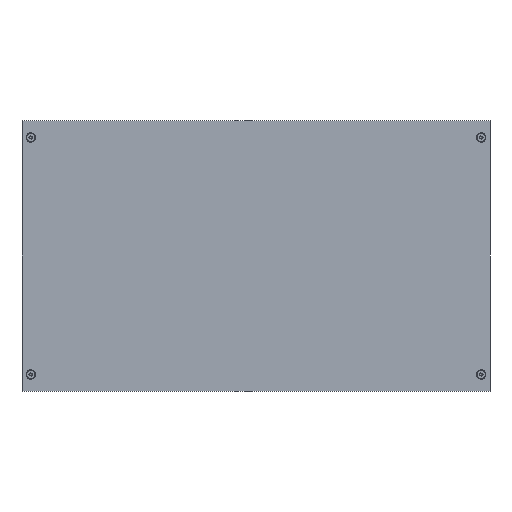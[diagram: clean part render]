
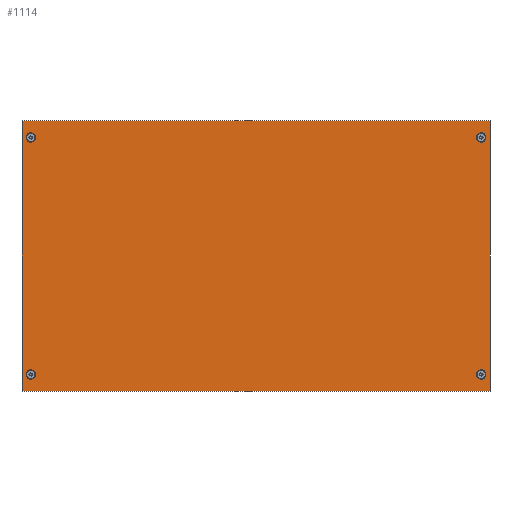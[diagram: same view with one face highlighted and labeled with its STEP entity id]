
A CAD part, front view. The second image highlights one B-rep face of the part: STEP entity #1114.
In plain terms, the highlighted planar face has unit normal (0, -1, 0).
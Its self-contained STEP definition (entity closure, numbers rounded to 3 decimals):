
#99=LINE('',#1996,#175);
#100=LINE('',#1999,#176);
#101=LINE('',#2001,#177);
#102=LINE('',#2003,#178);
#175=VECTOR('',#1621,1000.);
#176=VECTOR('',#1622,1000.);
#177=VECTOR('',#1623,1000.);
#178=VECTOR('',#1624,1000.);
#256=ORIENTED_EDGE('',*,*,#540,.T.);
#257=ORIENTED_EDGE('',*,*,#541,.T.);
#258=ORIENTED_EDGE('',*,*,#542,.T.);
#259=ORIENTED_EDGE('',*,*,#543,.T.);
#260=ORIENTED_EDGE('',*,*,#544,.T.);
#261=ORIENTED_EDGE('',*,*,#545,.T.);
#262=ORIENTED_EDGE('',*,*,#546,.T.);
#263=ORIENTED_EDGE('',*,*,#547,.T.);
#540=EDGE_CURVE('',#682,#683,#99,.T.);
#541=EDGE_CURVE('',#683,#684,#100,.T.);
#542=EDGE_CURVE('',#684,#685,#101,.T.);
#543=EDGE_CURVE('',#685,#682,#102,.T.);
#544=EDGE_CURVE('',#686,#686,#785,.T.);
#545=EDGE_CURVE('',#687,#687,#786,.T.);
#546=EDGE_CURVE('',#688,#688,#787,.T.);
#547=EDGE_CURVE('',#689,#689,#788,.T.);
#682=VERTEX_POINT('',#1997);
#683=VERTEX_POINT('',#1998);
#684=VERTEX_POINT('',#2000);
#685=VERTEX_POINT('',#2002);
#686=VERTEX_POINT('',#2005);
#687=VERTEX_POINT('',#2007);
#688=VERTEX_POINT('',#2009);
#689=VERTEX_POINT('',#2011);
#785=CIRCLE('',#1460,6.932);
#786=CIRCLE('',#1461,6.932);
#787=CIRCLE('',#1462,6.932);
#788=CIRCLE('',#1463,6.932);
#848=EDGE_LOOP('',(#256,#257,#258,#259));
#849=EDGE_LOOP('',(#260));
#850=EDGE_LOOP('',(#261));
#851=EDGE_LOOP('',(#262));
#852=EDGE_LOOP('',(#263));
#966=FACE_BOUND('',#848,.T.);
#967=FACE_BOUND('',#849,.T.);
#968=FACE_BOUND('',#850,.T.);
#969=FACE_BOUND('',#851,.T.);
#970=FACE_BOUND('',#852,.T.);
#1080=PLANE('',#1459);
#1114=ADVANCED_FACE('',(#966,#967,#968,#969,#970),#1080,.F.);
#1459=AXIS2_PLACEMENT_3D('',#1995,#1619,#1620);
#1460=AXIS2_PLACEMENT_3D('',#2004,#1625,#1626);
#1461=AXIS2_PLACEMENT_3D('',#2006,#1627,#1628);
#1462=AXIS2_PLACEMENT_3D('',#2008,#1629,#1630);
#1463=AXIS2_PLACEMENT_3D('',#2010,#1631,#1632);
#1619=DIRECTION('',(0.,1.,0.));
#1620=DIRECTION('',(0.,0.,1.));
#1621=DIRECTION('',(0.,0.,1.));
#1622=DIRECTION('',(-1.,0.,0.));
#1623=DIRECTION('',(0.,0.,-1.));
#1624=DIRECTION('',(1.,0.,0.));
#1625=DIRECTION('',(0.,1.,0.));
#1626=DIRECTION('',(0.,0.,1.));
#1627=DIRECTION('',(0.,1.,0.));
#1628=DIRECTION('',(0.,0.,1.));
#1629=DIRECTION('',(0.,1.,0.));
#1630=DIRECTION('',(0.,0.,1.));
#1631=DIRECTION('',(0.,1.,0.));
#1632=DIRECTION('',(0.,0.,1.));
#1995=CARTESIAN_POINT('',(0.,0.,0.));
#1996=CARTESIAN_POINT('',(345.5,0.,-1388.239));
#1997=CARTESIAN_POINT('',(345.5,0.,-199.5));
#1998=CARTESIAN_POINT('',(345.5,0.,199.5));
#1999=CARTESIAN_POINT('',(2410.239,0.,199.5));
#2000=CARTESIAN_POINT('',(-345.5,0.,199.5));
#2001=CARTESIAN_POINT('',(-345.5,0.,1388.239));
#2002=CARTESIAN_POINT('',(-345.5,0.,-199.5));
#2003=CARTESIAN_POINT('',(-2410.239,0.,-199.5));
#2004=CARTESIAN_POINT('',(332.5,0.,-175.));
#2005=CARTESIAN_POINT('',(332.5,0.,-168.068));
#2006=CARTESIAN_POINT('',(-332.5,0.,-175.));
#2007=CARTESIAN_POINT('',(-332.5,0.,-168.068));
#2008=CARTESIAN_POINT('',(332.5,0.,175.));
#2009=CARTESIAN_POINT('',(332.5,0.,181.932));
#2010=CARTESIAN_POINT('',(-332.5,0.,175.));
#2011=CARTESIAN_POINT('',(-332.5,0.,181.932));
